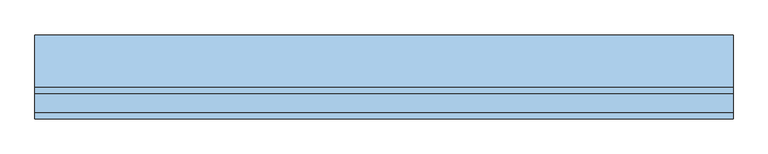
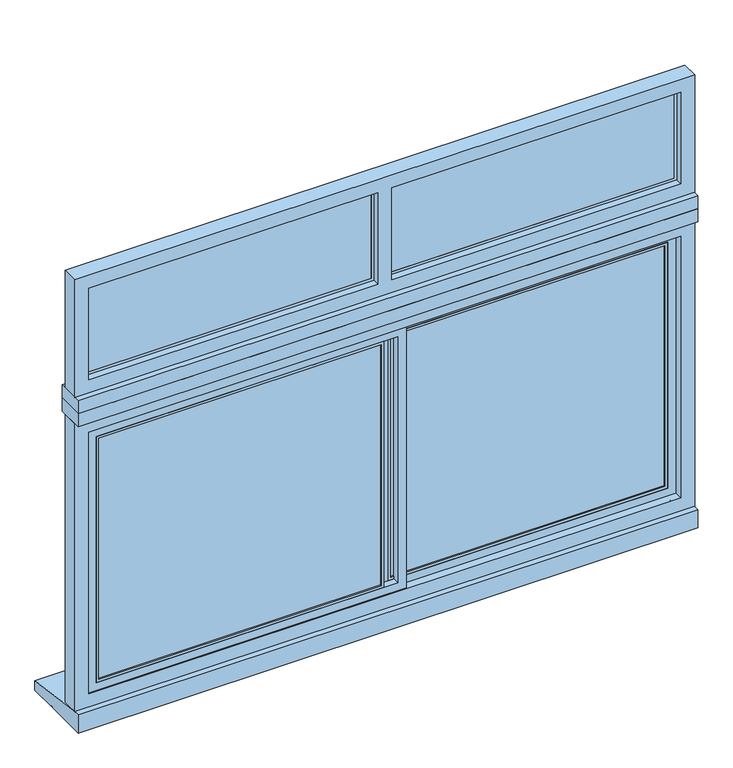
"""IFC4 building model written with IfcOpenShell, lengths in millimetres: window geometry, ARQ-VE-EX-234x165-Al-A4 : ARQ-VE-EX-224x165-Al-A4."""

from ifc_helpers import new_model, si_unit, point, frame, frame_2d, origin, place, context, project, spatial, polyline, circle_curve, trimmed, segment, composite_curve, outline, extrude, source, transform, mapped, element, save


def window_1fa9ee35(model_context):
    return source(origin(), model_context, "Body", "SweptSolid", [
        extrude(outline(composite_curve([segment(polyline([(108.1714567, 880.0), (-50.0, 880.0), (-50.0, 950.0), (-20.0, 950.0), (220.0, 916.0), (220.0, 880.0), (118.1714567, 880.0)]), True, "CONTINUOUS"), segment(trimmed(circle_curve(frame_2d((113.1714567, 880.0)), 5.0), [point((118.1714567, 880.0))], [point((108.1714567, 880.0))], True, "CARTESIAN"), True, "CONTINUOUS")], self_intersect=False)), frame((-1120.0, 0.0, 0.0), z_axis=(1.0, 0.0, 0.0), x_axis=(0.0, 1.0, 0.0)), (0.0, 0.0, 1.0), 2240.0),
        extrude(outline(polyline([(1030.0, 5.0), (40.0, 5.0), (40.0, 15.0), (1030.0, 15.0), (1030.0, 5.0)])), frame((0.0, 0.0, 1040.0), z_axis=(0.0, 0.0, 1.0), x_axis=(1.0, 0.0, 0.0)), (0.0, 0.0, 1.0), 920.0),
        extrude(outline(polyline([(-10.0, -20.0), (-1030.0, -20.0), (-1030.0, -10.0), (-10.0, -10.0), (-10.0, -20.0)])), frame((0.0, 0.0, 1040.0), z_axis=(0.0, 0.0, 1.0), x_axis=(1.0, 0.0, 0.0)), (0.0, 0.0, 1.0), 920.0),
        extrude(outline(polyline([(1970.0, 1040.0), (1970.0, 30.0), (1030.0, 30.0), (1030.0, 1040.0), (1970.0, 1040.0)]), holes=[polyline([(1040.0, 1030.0), (1040.0, 40.0), (1960.0, 40.0), (1960.0, 1030.0), (1040.0, 1030.0)])]), frame((0.0, 0.0, 0.0), z_axis=(0.0, 1.0, 0.0), x_axis=(0.0, 0.0, 1.0)), (0.0, 0.0, 1.0), 20.0),
        extrude(outline(polyline([(1970.0, -1040.0), (1030.0, -1040.0), (1030.0, 0.0), (1970.0, 0.0), (1970.0, -1040.0)]), holes=[polyline([(1040.0, -10.0), (1040.0, -1030.0), (1960.0, -1030.0), (1960.0, -10.0), (1040.0, -10.0)])]), frame((0.0, -25.0, 0.0), z_axis=(0.0, 1.0, 0.0), x_axis=(0.0, 0.0, 1.0)), (0.0, 0.0, 1.0), 20.0),
        extrude(outline(polyline([(1000.0, 1070.0), (2000.0, 1070.0), (2000.0, 0.0), (1000.0, 0.0), (1000.0, 1070.0)]), holes=[polyline([(1030.0, 1040.0), (1030.0, 30.0), (1970.0, 30.0), (1970.0, 1040.0), (1030.0, 1040.0)])]), frame((0.0, 0.0, 0.0), z_axis=(0.0, 1.0, 0.0), x_axis=(0.0, 0.0, 1.0)), (0.0, 0.0, 1.0), 25.0),
        extrude(outline(polyline([(1000.0, 80.0), (2000.0, 80.0), (2000.0, -1070.0), (1000.0, -1070.0), (1000.0, 80.0)]), holes=[polyline([(1030.0, 50.0), (1030.0, -1040.0), (1970.0, -1040.0), (1970.0, 50.0), (1030.0, 50.0)])]), frame((0.0, -25.0, 0.0), z_axis=(0.0, 1.0, 0.0), x_axis=(0.0, 0.0, 1.0)), (0.0, 0.0, 1.0), 25.0),
        extrude(outline(polyline([(1120.0, -50.0), (-1120.0, -50.0), (-1120.0, 50.0), (1120.0, 50.0), (1120.0, -50.0)])), frame((0.0, 0.0, 2050.0), z_axis=(0.0, 0.0, 1.0), x_axis=(1.0, 0.0, 0.0)), (0.0, 0.0, 1.0), 50.0),
        extrude(outline(polyline([(1120.0, -50.0), (-1120.0, -50.0), (-1120.0, 50.0), (1120.0, 50.0), (1120.0, -50.0)])), frame((0.0, 0.0, 2100.0), z_axis=(0.0, 0.0, 1.0), x_axis=(1.0, 0.0, 0.0)), (0.0, 0.0, 1.0), 50.0),
        extrude(outline(polyline([(1060.0, -5.0), (35.0, -5.0), (35.0, 5.0), (1060.0, 5.0), (1060.0, -5.0)])), frame((0.0, 0.0, 2210.0), z_axis=(0.0, 0.0, 1.0), x_axis=(1.0, 0.0, 0.0)), (0.0, 0.0, 1.0), 330.0),
        extrude(outline(polyline([(-35.0, -5.0), (-1060.0, -5.0), (-1060.0, 5.0), (-35.0, 5.0), (-35.0, -5.0)])), frame((0.0, 0.0, 2210.0), z_axis=(0.0, 0.0, 1.0), x_axis=(1.0, 0.0, 0.0)), (0.0, 0.0, 1.0), 330.0),
        extrude(outline(polyline([(2200.0, -25.0), (2550.0, -25.0), (2550.0, -1070.0), (2200.0, -1070.0), (2200.0, -25.0)]), holes=[polyline([(2540.0, -35.0), (2210.0, -35.0), (2210.0, -1060.0), (2540.0, -1060.0), (2540.0, -35.0)])]), frame((0.0, -5.0, 0.0), z_axis=(0.0, 1.0, 0.0), x_axis=(0.0, 0.0, 1.0)), (0.0, 0.0, 1.0), 10.0),
        extrude(outline(polyline([(2550.0, 1070.0), (2550.0, 25.0), (2200.0, 25.0), (2200.0, 1070.0), (2550.0, 1070.0)]), holes=[polyline([(2540.0, 1060.0), (2210.0, 1060.0), (2210.0, 35.0), (2540.0, 35.0), (2540.0, 1060.0)])]), frame((0.0, -5.0, 0.0), z_axis=(0.0, 1.0, 0.0), x_axis=(0.0, 0.0, 1.0)), (0.0, 0.0, 1.0), 10.0),
        extrude(outline(polyline([(2050.0, 1120.0), (2050.0, -1120.0), (950.0, -1120.0), (950.0, 1120.0), (2050.0, 1120.0)]), holes=[polyline([(1000.0, 1070.0), (1000.0, -1070.0), (2000.0, -1070.0), (2000.0, 1070.0), (1000.0, 1070.0)])]), frame((0.0, -30.0, 0.0), z_axis=(0.0, 1.0, 0.0), x_axis=(0.0, 0.0, 1.0)), (0.0, 0.0, 1.0), 60.0),
        extrude(outline(polyline([(2150.0, 1120.0), (2600.0, 1120.0), (2600.0, -1120.0), (2150.0, -1120.0), (2150.0, 1120.0)]), holes=[polyline([(2200.0, 25.0), (2550.0, 25.0), (2550.0, 1070.0), (2200.0, 1070.0), (2200.0, 25.0)]), polyline([(2550.0, -25.0), (2200.0, -25.0), (2200.0, -1070.0), (2550.0, -1070.0), (2550.0, -25.0)])]), frame((0.0, -30.0, 0.0), z_axis=(0.0, 1.0, 0.0), x_axis=(0.0, 0.0, 1.0)), (0.0, 0.0, 1.0), 60.0),
    ])


if __name__ == "__main__":
    model = new_model("IFC4")
    model_context = context("Model", 3, world=origin())
    ifc_project = project(units=[si_unit("LENGTHUNIT", "METRE", prefix="MILLI")], contexts=[model_context])
    site = spatial("IfcSite", under=ifc_project)
    building = spatial("IfcBuilding", under=site)
    placement = place(None, origin())
    window_shape = window_1fa9ee35(model_context)
    element("IfcWindow", 1, ObjectType="ARQ-VE-EX-234x165-Al-A4 : ARQ-VE-EX-224x165-Al-A4", at=placement, inside=building, context=model_context, shape_type="MappedRepresentation", body=[
        mapped(window_shape, transform((0.0, 0.0, 0.0), x_axis=(1.0, 0.0, 0.0), y_axis=(0.0, 1.0, 0.0), z_axis=(0.0, 0.0, 1.0))),
    ])
    save(model, "model.ifc")
